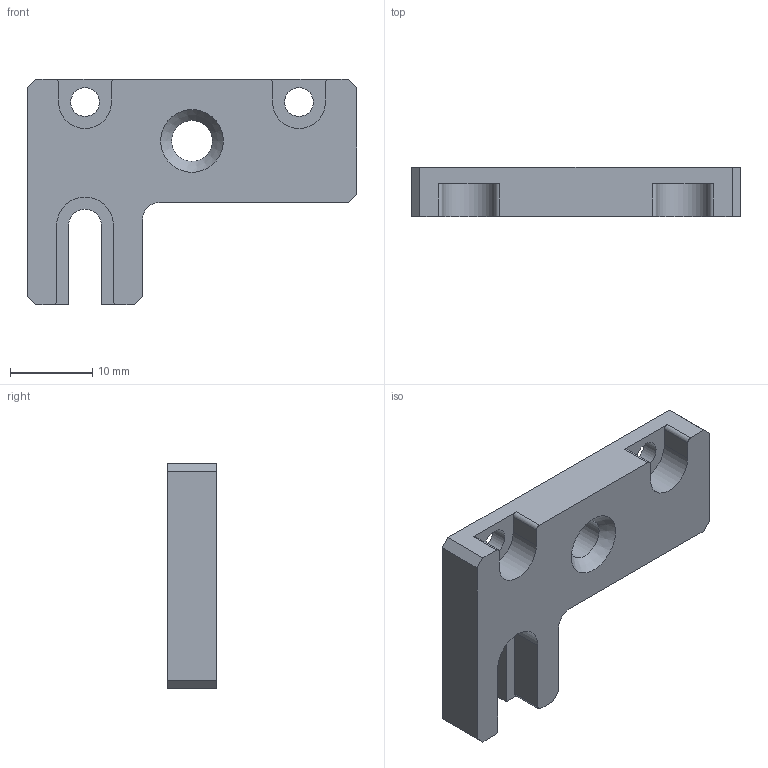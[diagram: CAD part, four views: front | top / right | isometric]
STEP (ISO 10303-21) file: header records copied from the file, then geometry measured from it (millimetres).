
FILE_DESCRIPTION(/* description */ ('MOUNTING BRACKET (3 MOUNTS)'),/* implementation_level */ '2;1');
FILE_NAME(/* name */ 'J:\MECH_ENG\ECO Ready Drawings\Andrew B\03-006-22121-00 NOVA MOUNTING BRACKET (3 MOUNTS)\03-006-22121-00 NOVA MOUNTING BRACKET (3 MOUNTS).stp',/* time_stamp */ '2016-02-01T16:44:07-05:00',/* author */ ('bogdanis'),/* organization */ (''),/* preprocessor_version */ 'ST-DEVELOPER v15.2',/* originating_system */ 'Autodesk Inventor 2014',/* authorisation */ '');
FILE_SCHEMA (('AUTOMOTIVE_DESIGN { 1 0 10303 214 3 1 1 }'));
Length unit declared in the file: millimetre
Products named in the file (1): MOUNTING BRACKET (3 MOUNTS)
Bounding box: 40 x 6 x 27.41 mm (x, y, z)
Volume: 3754.9 mm3; surface area: 2510.2 mm2
Topology: 1 solids, 1 shells, 306 faces, 849 edges, 566 vertices
Faces by surface type: plane 195, bspline 96, cylinder 14, cone 1
Full cylindrical faces by diameter (mm): 3.5 x2, 4.978 x1
Entity records: 10580 total; most frequent: CARTESIAN_POINT 3252, ORIENTED_EDGE 1688, DIRECTION 1103, EDGE_CURVE 844, LINE 623, VECTOR 623, VERTEX_POINT 565, EDGE_LOOP 337
